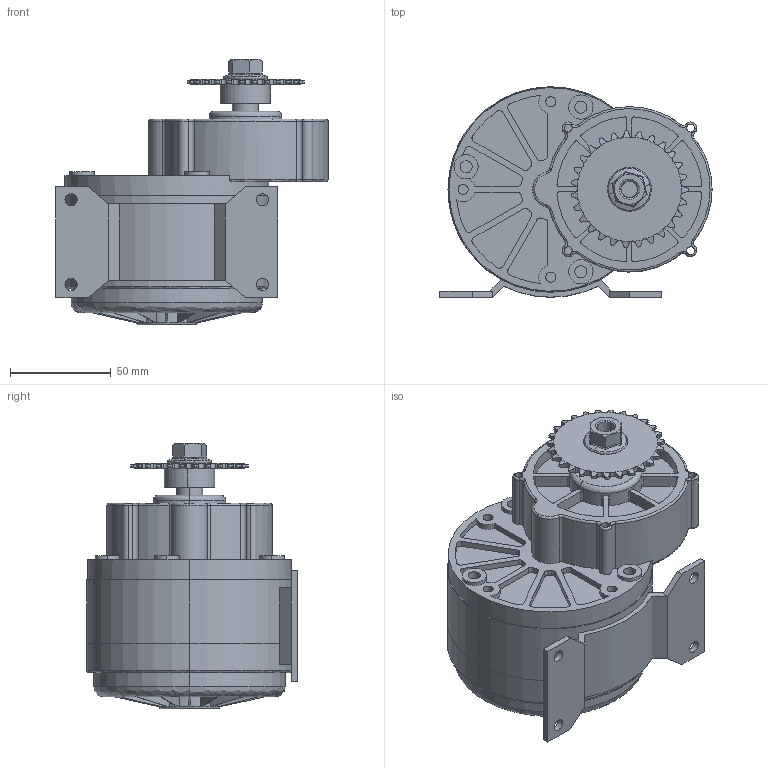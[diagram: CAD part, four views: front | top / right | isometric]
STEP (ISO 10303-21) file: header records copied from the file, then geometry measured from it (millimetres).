
FILE_DESCRIPTION (( 'STEP AP203' ), '1' );
FILE_NAME ('motor my1016 gear.STEP', '2014-05-30T06:42:59', ( 'Sky123.Org' ), ( 'Sky123.Org' ), 'SwSTEP 2.0', 'SolidWorks 2012', '' );
FILE_SCHEMA (( 'CONFIG_CONTROL_DESIGN' ));
Length unit declared in the file: millimetre
Products named in the file (6): MY1016-m?i ph?n tru?c; MY1016-m?i ph?n du灁; d? motor; hex flange nut gradea_iso_Hexagon Flange Nut ISO - 4161 - M10 - N; motor my1016 gear; nhông xích d?ng co
Assembly tree (5 placements, depth 2):
  motor my1016 gear
    MY1016-m?i ph?n tru?c
    MY1016-m?i ph?n du灁
    d? motor
    nhông xích d?ng co
    hex flange nut gradea_iso_Hexagon Flange Nut ISO - 4161 - M10 - N
Bounding box: 135 x 104.42 x 131.79 mm (x, y, z)
Volume: 710357.6 mm3; surface area: 96262.1 mm2
Topology: 5 solids, 5 shells, 669 faces, 1799 edges, 1157 vertices
Faces by surface type: cylinder 350, plane 183, cone 85, bspline 49, torus 2
Entity records: 23467 total; most frequent: CARTESIAN_POINT 6760, ORIENTED_EDGE 3598, DIRECTION 3173, EDGE_CURVE 1799, AXIS2_PLACEMENT_3D 1281, VERTEX_POINT 1157, EDGE_LOOP 702, ADVANCED_FACE 669
